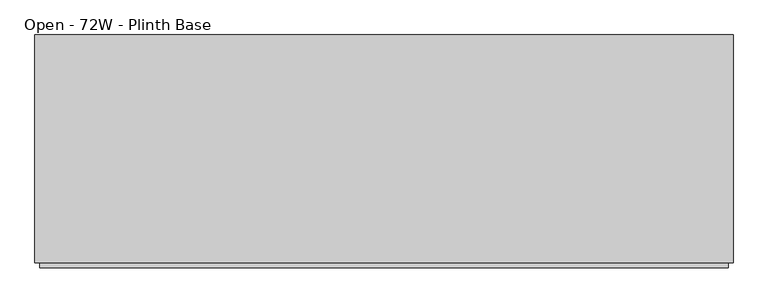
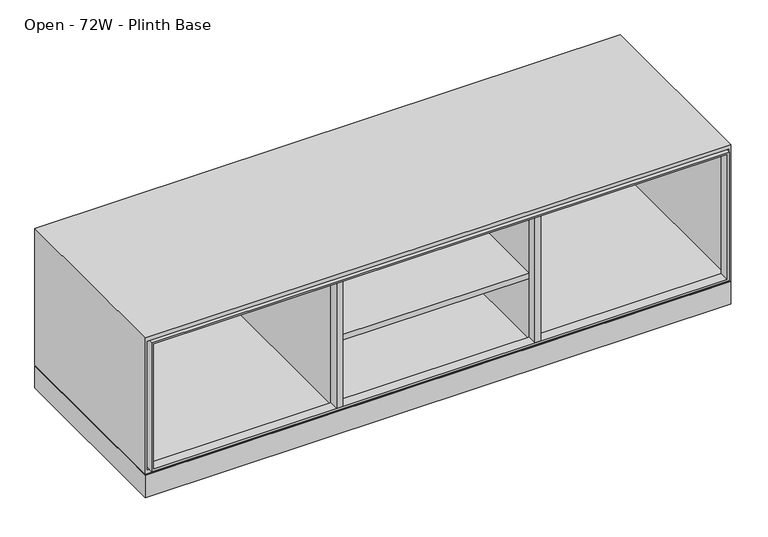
"""IFC4 building model written with IfcOpenShell, lengths in millimetres: furniture geometry, Steelcase Coalesse - Exponents - Storage - Credenza - 21H : Open - 72W - Plinth Base."""

from ifc_helpers import new_model, si_unit, point, frame, frame_2d, origin, origin_with_axes, place, context, project, spatial, polyline, circle_curve, trimmed, segment, composite_curve, outline, extrude, faceted_brep, source, transform, mapped, element, save


def open_72w_plinth_base_99677caf(model_context):
    return source(origin(), model_context, "Body", "SolidModel", [
        faceted_brep([(6.35, 31.75, 520.7), (6.35, 31.75, 95.25), (6.35, 622.3, 95.25), (6.35, 622.3, 520.7), (1822.45, 622.3, 95.25), (1822.45, 622.3, 520.7), (1822.45, 31.75, 95.25), (1822.45, 31.75, 520.7), (0.0, 31.75, 82.55), (1828.8, 31.75, 82.55), (1828.8, 31.75, 533.4), (0.0, 31.75, 533.4), (1828.8, 628.65, 82.55), (1828.8, 628.65, 533.4), (0.0, 628.65, 82.55), (0.0, 628.65, 533.4)], [[[0, 1, 2, 3]], [[3, 2, 4, 5]], [[5, 4, 6, 7]], [[8, 9, 10, 11], [7, 6, 1, 0]], [[10, 9, 12, 13]], [[13, 12, 14, 15]], [[15, 14, 8, 11]], [[7, 0, 3, 5]], [[10, 13, 15, 11]], [[1, 6, 4, 2]], [[12, 9, 8, 14]]]),
        extrude(outline(polyline([(520.7, 1816.1), (520.7, 12.7), (95.25, 12.7), (95.25, 1816.1), (520.7, 1816.1)]), holes=[polyline([(514.35, 1809.75), (101.6, 1809.75), (101.6, 19.05), (514.35, 19.05), (514.35, 1809.75)])]), frame((0.0, 19.05, 0.0), z_axis=(0.0, 1.0, 0.0), x_axis=(0.0, 0.0, 1.0)), (0.0, 0.0, 1.0), 31.75),
        extrude(outline(composite_curve([segment(trimmed(circle_curve(frame_2d((19.05, 593.5667033)), 6.35), [point((12.7, 593.5667033))], [point((25.4, 593.5667033))], False, "CARTESIAN"), True, "CONTINUOUS"), segment(trimmed(circle_curve(frame_2d((19.05, 593.5667033)), 6.35), [point((25.4, 593.5667033))], [point((12.7, 593.5667033))], False, "CARTESIAN"), True, "CONTINUOUS")], self_intersect=False)), origin_with_axes(), (0.0, 0.0, 1.0), 6.35),
        extrude(outline(composite_curve([segment(trimmed(circle_curve(frame_2d((19.05, 66.7867854)), 6.35), [point((12.7, 66.7867854))], [point((25.4, 66.7867854))], False, "CARTESIAN"), True, "CONTINUOUS"), segment(trimmed(circle_curve(frame_2d((19.05, 66.7867854)), 6.35), [point((25.4, 66.7867854))], [point((12.7, 66.7867854))], False, "CARTESIAN"), True, "CONTINUOUS")], self_intersect=False)), origin_with_axes(), (0.0, 0.0, 1.0), 6.35),
        extrude(outline(composite_curve([segment(trimmed(circle_curve(frame_2d((1809.75, 593.5667033)), 6.35), [point((1803.4, 593.5667033))], [point((1816.1, 593.5667033))], False, "CARTESIAN"), True, "CONTINUOUS"), segment(trimmed(circle_curve(frame_2d((1809.75, 593.5667033)), 6.35), [point((1816.1, 593.5667033))], [point((1803.4, 593.5667033))], False, "CARTESIAN"), True, "CONTINUOUS")], self_intersect=False)), origin_with_axes(), (0.0, 0.0, 1.0), 6.35),
        extrude(outline(composite_curve([segment(trimmed(circle_curve(frame_2d((1809.75, 66.7867854)), 6.35), [point((1803.4, 66.7867854))], [point((1816.1, 66.7867854))], False, "CARTESIAN"), True, "CONTINUOUS"), segment(trimmed(circle_curve(frame_2d((1809.75, 66.7867854)), 6.35), [point((1816.1, 66.7867854))], [point((1803.4, 66.7867854))], False, "CARTESIAN"), True, "CONTINUOUS")], self_intersect=False)), origin_with_axes(), (0.0, 0.0, 1.0), 6.35),
        extrude(outline(polyline([(0.0, -19.05), (0.0, 0.0), (31.75, 0.0), (31.75, -19.05), (0.0, -19.05)])), frame((1209.675, 19.05, 101.6), z_axis=(3.1477043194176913e-12, 0.0, 1.0), x_axis=(0.0, 1.0, 0.0)), (0.0, 0.0, 1.0), 412.75),
        extrude(outline(polyline([(0.0, -19.05), (0.0, 0.0), (31.75, 0.0), (31.75, -19.05), (0.0, -19.05)])), frame((590.55, 19.05, 101.6), z_axis=(3.3608671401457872e-12, 0.0, 1.0), x_axis=(0.0, 1.0, 0.0)), (0.0, 0.0, 1.0), 412.75),
        extrude(outline(polyline([(1209.675, 609.6), (1228.725, 609.6), (1228.725, 50.8), (1209.675, 50.8), (1209.675, 609.6)])), frame((0.0, 0.0, 95.25), z_axis=(0.0, 0.0, 1.0), x_axis=(1.0, 0.0, 0.0)), (0.0, 0.0, 1.0), 425.45),
        extrude(outline(polyline([(1209.675, 50.8), (609.6, 50.8), (609.6, 609.6), (1209.675, 609.6), (1209.675, 50.8)])), frame((0.0, 0.0, 295.275), z_axis=(0.0, 0.0, 1.0), x_axis=(1.0, 0.0, 0.0)), (0.0, 0.0, 1.0), 19.05),
        extrude(outline(polyline([(1828.8, 628.65), (1828.8, 31.75), (0.0, 31.75), (0.0, 628.65), (1828.8, 628.65)]), holes=[polyline([(1809.75, 622.3), (19.05, 622.3), (19.05, 38.1), (1809.75, 38.1), (1809.75, 622.3)])]), frame((0.0, 0.0, 6.35), z_axis=(0.0, 0.0, 1.0), x_axis=(1.0, 0.0, 0.0)), (0.0, 0.0, 1.0), 73.4568),
        extrude(outline(polyline([(590.55, 609.6), (609.6, 609.6), (609.6, 50.8), (590.55, 50.8), (590.55, 609.6)])), frame((0.0, 0.0, 95.25), z_axis=(0.0, 0.0, 1.0), x_axis=(1.0, 0.0, 0.0)), (0.0, 0.0, 1.0), 425.45),
    ])


if __name__ == "__main__":
    model = new_model("IFC4")
    model_context = context("Model", 3, world=origin())
    ifc_project = project(units=[si_unit("LENGTHUNIT", "METRE", prefix="MILLI")], contexts=[model_context])
    site = spatial("IfcSite", under=ifc_project)
    building = spatial("IfcBuilding", under=site)
    placement = place(None, origin())
    open_72w_plinth_base_shape = open_72w_plinth_base_99677caf(model_context)
    element("IfcFurniture", 1, ObjectType="Steelcase Coalesse - Exponents - Storage - Credenza - 21H : Open - 72W - Plinth Base", at=placement, inside=building, context=model_context, shape_type="MappedRepresentation", body=[
        mapped(open_72w_plinth_base_shape, transform((0.0, 0.0, 0.0), x_axis=(1.0, 0.0, 0.0), y_axis=(0.0, 1.0, 0.0), z_axis=(0.0, 0.0, 1.0))),
    ])
    save(model, "model.ifc")
